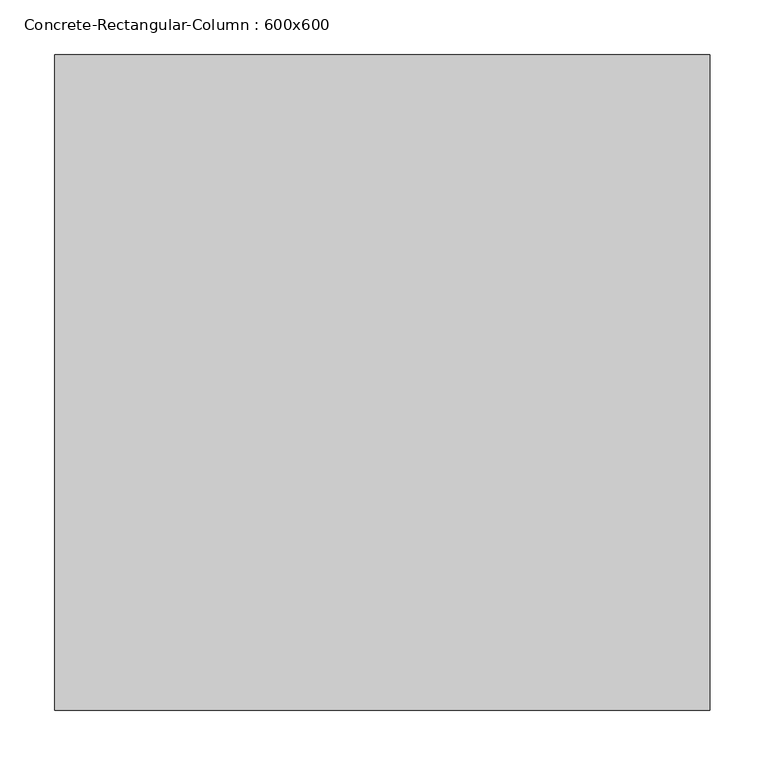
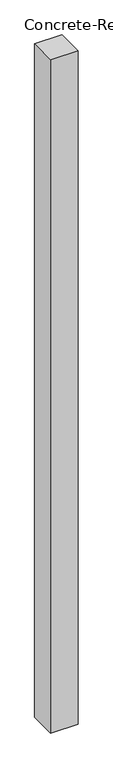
"""IFC4 building model written with IfcOpenShell, lengths in millimetres: column geometry, Concrete-Rectangular-Column : 600x600."""

from ifc_helpers import new_model, si_unit, frame, origin, place, context, project, spatial, polyline, outline, extrude, source, transform, mapped, element, save


def concrete_rectangular_column_600x600_80d3ca89(model_context):
    return source(origin(), model_context, "Body", "SweptSolid", [
        extrude(outline(polyline([(300.0, 300.0), (300.0, -300.0), (-300.0, -300.0), (-300.0, 300.0), (300.0, 300.0)])), frame((0.0, 0.0, -7500.0), z_axis=(0.0, 0.0, 1.0), x_axis=(1.0, 0.0, 0.0)), (0.0, 0.0, 1.0), 15600.0),
    ])


if __name__ == "__main__":
    model = new_model("IFC4")
    model_context = context("Model", 3, world=origin())
    ifc_project = project(units=[si_unit("LENGTHUNIT", "METRE", prefix="MILLI")], contexts=[model_context])
    site = spatial("IfcSite", under=ifc_project)
    building = spatial("IfcBuilding", under=site)
    placement = place(None, origin())
    concrete_rectangular_column_600x600_shape = concrete_rectangular_column_600x600_80d3ca89(model_context)
    element("IfcColumn", 1, ObjectType="Concrete-Rectangular-Column : 600x600", at=placement, inside=building, context=model_context, shape_type="MappedRepresentation", body=[
        mapped(concrete_rectangular_column_600x600_shape, transform((0.0, 0.0, 0.0), x_axis=(1.0, 0.0, 0.0), y_axis=(0.0, 1.0, 0.0), z_axis=(0.0, 0.0, 1.0))),
    ])
    save(model, "model.ifc")
